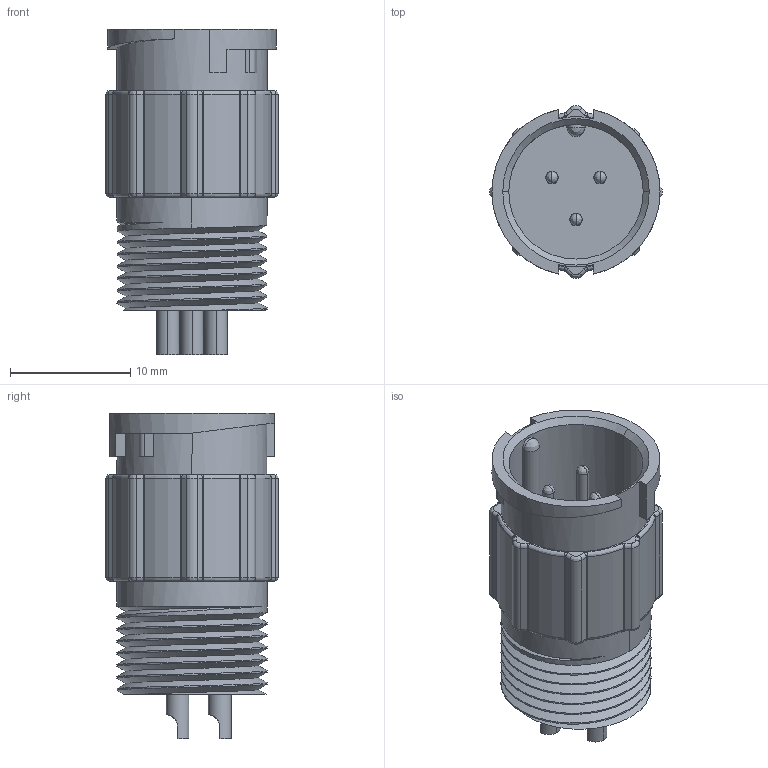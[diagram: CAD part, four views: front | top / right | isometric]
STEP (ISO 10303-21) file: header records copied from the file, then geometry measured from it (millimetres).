
FILE_DESCRIPTION (( 'STEP AP203' ), '1' );
FILE_NAME ('868-03B-103R001.STEP', '2025-12-17T18:26:23', ( '' ), ( '' ), 'SwSTEP 2.0', 'SolidWorks 2020', '' );
FILE_SCHEMA (( 'CONFIG_CONTROL_DESIGN' ));
Length unit declared in the file: millimetre
Products named in the file (1): 868-03B-103R001
Bounding box: 14.39 x 14.39 x 27.1 mm (x, y, z)
Volume: 1965.9 mm3; surface area: 2352.4 mm2
Topology: 1 solids, 1 shells, 289 faces, 696 edges, 409 vertices
Faces by surface type: cylinder 129, bspline 81, plane 52, cone 27
Entity records: 13986 total; most frequent: CARTESIAN_POINT 7716, ORIENTED_EDGE 1366, DIRECTION 1224, EDGE_CURVE 683, AXIS2_PLACEMENT_3D 479, VERTEX_POINT 409, EDGE_LOOP 302, ADVANCED_FACE 289
